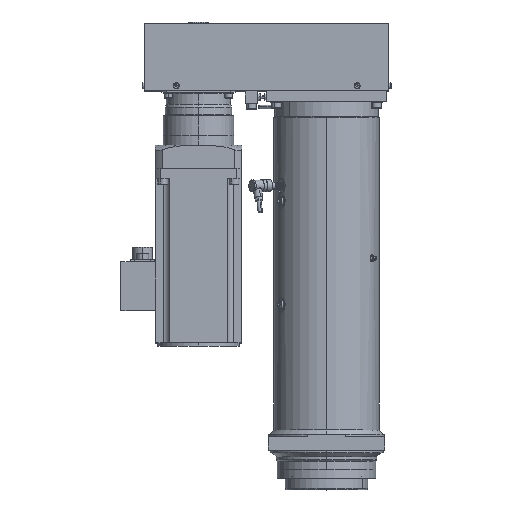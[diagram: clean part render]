
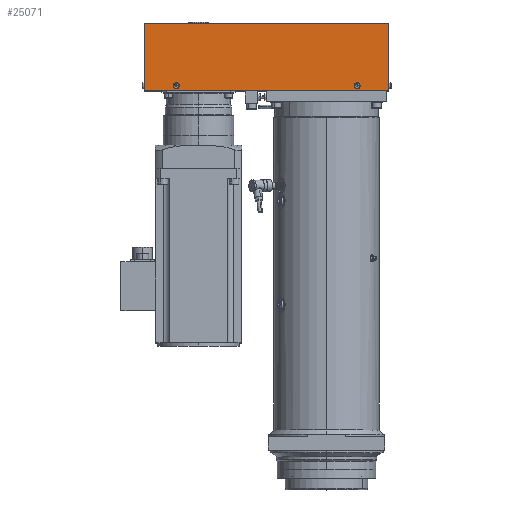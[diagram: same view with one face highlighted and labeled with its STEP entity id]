
A CAD part, top view. The second image highlights one B-rep face of the part: STEP entity #25071.
In plain terms, the highlighted planar face has unit normal (0, 0, 1).
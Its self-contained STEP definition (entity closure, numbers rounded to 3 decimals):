
#408 = AXIS2_PLACEMENT_3D ( 'NONE', #40317, #9905, #31970 ) ;
#1323 = EDGE_LOOP ( 'NONE', ( #41457, #44020 ) ) ;
#1557 = ORIENTED_EDGE ( 'NONE', *, *, #50172, .F. ) ;
#2579 = DIRECTION ( 'NONE',  ( 1., 0., 0. ) ) ;
#2892 = CARTESIAN_POINT ( 'NONE',  ( 93.295, 460.934, 192.364 ) ) ;
#2920 = EDGE_CURVE ( 'NONE', #51046, #52179, #43899, .T. ) ;
#3002 = CARTESIAN_POINT ( 'NONE',  ( -251.155, 452.434, 192.364 ) ) ;
#3492 = DIRECTION ( 'NONE',  ( 1., 0., 0. ) ) ;
#4245 = VERTEX_POINT ( 'NONE', #54228 ) ;
#5127 = EDGE_CURVE ( 'NONE', #4245, #18252, #34751, .T. ) ;
#5166 = EDGE_CURVE ( 'NONE', #18252, #52179, #25778, .T. ) ;
#6060 = CIRCLE ( 'NONE', #52692, 3.3 ) ;
#6612 = ORIENTED_EDGE ( 'NONE', *, *, #44313, .F. ) ;
#8558 = ORIENTED_EDGE ( 'NONE', *, *, #2920, .F. ) ;
#8584 = ORIENTED_EDGE ( 'NONE', *, *, #5166, .T. ) ;
#8658 = FACE_BOUND ( 'NONE', #1323, .T. ) ;
#8753 = CARTESIAN_POINT ( 'NONE',  ( -251.155, 562.934, 192.364 ) ) ;
#9095 = DIRECTION ( 'NONE',  ( 0., -1., 0. ) ) ;
#9331 = DIRECTION ( 'NONE',  ( 0., 0., -1. ) ) ;
#9905 = DIRECTION ( 'NONE',  ( 0., 0., 1. ) ) ;
#10345 = CIRCLE ( 'NONE', #16981, 3.3 ) ;
#11426 = FACE_OUTER_BOUND ( 'NONE', #38262, .T. ) ;
#12368 = EDGE_CURVE ( 'NONE', #53114, #23656, #52914, .T. ) ;
#13686 = CARTESIAN_POINT ( 'NONE',  ( -251.155, 562.934, 192.364 ) ) ;
#13869 = LINE ( 'NONE', #44211, #47619 ) ;
#16981 = AXIS2_PLACEMENT_3D ( 'NONE', #44826, #18186, #53457 ) ;
#17541 = DIRECTION ( 'NONE',  ( -1., 0., 0. ) ) ;
#18158 = DIRECTION ( 'NONE',  ( 1., 0., 0. ) ) ;
#18184 = ORIENTED_EDGE ( 'NONE', *, *, #5127, .T. ) ;
#18186 = DIRECTION ( 'NONE',  ( 0., 0., 1. ) ) ;
#18252 = VERTEX_POINT ( 'NONE', #3002 ) ;
#20012 = DIRECTION ( 'NONE',  ( 0., 0., 1. ) ) ;
#20250 = VECTOR ( 'NONE', #9095, 1000. ) ;
#20404 = VECTOR ( 'NONE', #39607, 1000. ) ;
#20632 = EDGE_CURVE ( 'NONE', #4245, #51046, #13869, .T. ) ;
#23656 = VERTEX_POINT ( 'NONE', #2892 ) ;
#23669 = AXIS2_PLACEMENT_3D ( 'NONE', #37765, #20012, #2579 ) ;
#25071 = ADVANCED_FACE ( 'NONE', ( #8658, #47176, #11426 ), #35092, .F. ) ;
#25778 = LINE ( 'NONE', #40080, #56166 ) ;
#27006 = ORIENTED_EDGE ( 'NONE', *, *, #20632, .F. ) ;
#29994 = CIRCLE ( 'NONE', #23669, 3.3 ) ;
#31970 = DIRECTION ( 'NONE',  ( 1., 0., 0. ) ) ;
#33052 = CARTESIAN_POINT ( 'NONE',  ( -196.105, 460.934, 192.364 ) ) ;
#33864 = CARTESIAN_POINT ( 'NONE',  ( -202.705, 460.934, 192.364 ) ) ;
#34323 = VERTEX_POINT ( 'NONE', #33864 ) ;
#34574 = CARTESIAN_POINT ( 'NONE',  ( 148.345, 562.934, 192.364 ) ) ;
#34751 = LINE ( 'NONE', #13686, #20250 ) ;
#35092 = PLANE ( 'NONE',  #52891 ) ;
#35542 = CARTESIAN_POINT ( 'NONE',  ( 148.345, 562.934, 192.364 ) ) ;
#37765 = CARTESIAN_POINT ( 'NONE',  ( 96.595, 460.934, 192.364 ) ) ;
#38262 = EDGE_LOOP ( 'NONE', ( #8584, #8558, #27006, #18184 ) ) ;
#39607 = DIRECTION ( 'NONE',  ( 0., -1., 0. ) ) ;
#40080 = CARTESIAN_POINT ( 'NONE',  ( -251.155, 452.434, 192.364 ) ) ;
#40317 = CARTESIAN_POINT ( 'NONE',  ( 96.595, 460.934, 192.364 ) ) ;
#40512 = CARTESIAN_POINT ( 'NONE',  ( 99.895, 460.934, 192.364 ) ) ;
#41457 = ORIENTED_EDGE ( 'NONE', *, *, #12368, .F. ) ;
#43120 = DIRECTION ( 'NONE',  ( 0., 0., 1. ) ) ;
#43899 = LINE ( 'NONE', #35542, #20404 ) ;
#44020 = ORIENTED_EDGE ( 'NONE', *, *, #53304, .F. ) ;
#44211 = CARTESIAN_POINT ( 'NONE',  ( -251.155, 562.934, 192.364 ) ) ;
#44313 = EDGE_CURVE ( 'NONE', #49172, #34323, #10345, .T. ) ;
#44826 = CARTESIAN_POINT ( 'NONE',  ( -199.405, 460.934, 192.364 ) ) ;
#46911 = EDGE_LOOP ( 'NONE', ( #6612, #1557 ) ) ;
#47176 = FACE_BOUND ( 'NONE', #46911, .T. ) ;
#47619 = VECTOR ( 'NONE', #18158, 1000. ) ;
#49172 = VERTEX_POINT ( 'NONE', #33052 ) ;
#50172 = EDGE_CURVE ( 'NONE', #34323, #49172, #6060, .T. ) ;
#51046 = VERTEX_POINT ( 'NONE', #34574 ) ;
#52179 = VERTEX_POINT ( 'NONE', #56274 ) ;
#52692 = AXIS2_PLACEMENT_3D ( 'NONE', #55613, #43120, #3492 ) ;
#52891 = AXIS2_PLACEMENT_3D ( 'NONE', #8753, #9331, #17541 ) ;
#52914 = CIRCLE ( 'NONE', #408, 3.3 ) ;
#53114 = VERTEX_POINT ( 'NONE', #40512 ) ;
#53304 = EDGE_CURVE ( 'NONE', #23656, #53114, #29994, .T. ) ;
#53342 = DIRECTION ( 'NONE',  ( 1., 0., 0. ) ) ;
#53457 = DIRECTION ( 'NONE',  ( 1., 0., 0. ) ) ;
#54228 = CARTESIAN_POINT ( 'NONE',  ( -251.155, 562.934, 192.364 ) ) ;
#55613 = CARTESIAN_POINT ( 'NONE',  ( -199.405, 460.934, 192.364 ) ) ;
#56166 = VECTOR ( 'NONE', #53342, 1000. ) ;
#56274 = CARTESIAN_POINT ( 'NONE',  ( 148.345, 452.434, 192.364 ) ) ;
